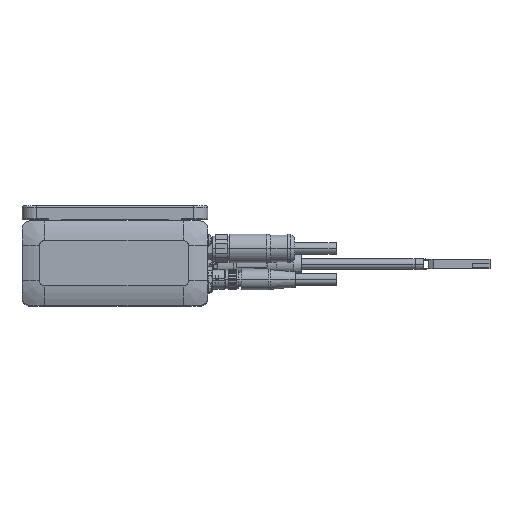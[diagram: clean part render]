
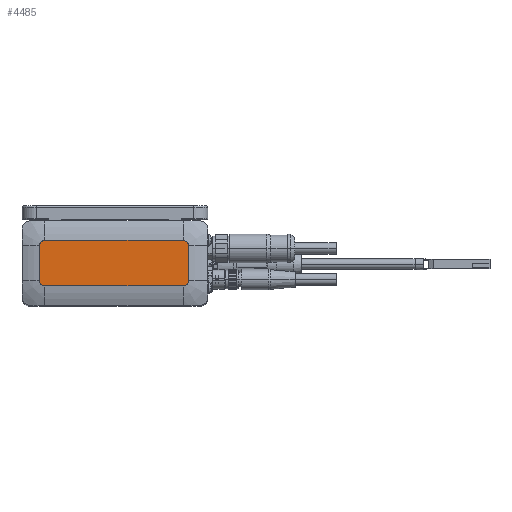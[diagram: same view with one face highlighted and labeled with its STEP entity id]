
A CAD part, top view. The second image highlights one B-rep face of the part: STEP entity #4485.
In plain terms, the highlighted planar face has unit normal (0, 0, 1).
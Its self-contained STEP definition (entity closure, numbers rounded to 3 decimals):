
#2111=DIRECTION('',(1.,0.,0.));
#2112=VECTOR('',#2111,66.986);
#2113=CARTESIAN_POINT('',(-33.986,11.016,108.));
#2114=LINE('',#2113,#2112);
#2118=CARTESIAN_POINT('',(33.,8.5,108.));
#2119=DIRECTION('',(0.,0.,-1.));
#2120=DIRECTION('',(0.,1.,0.));
#2121=AXIS2_PLACEMENT_3D('',#2118,#2119,#2120);
#2126=DIRECTION('',(0.,-1.,0.));
#2127=VECTOR('',#2126,17.);
#2128=CARTESIAN_POINT('',(35.516,8.5,108.));
#2129=LINE('',#2128,#2127);
#2133=CARTESIAN_POINT('',(33.,-8.5,108.));
#2134=DIRECTION('',(0.,0.,-1.));
#2135=DIRECTION('',(1.,0.,0.));
#2136=AXIS2_PLACEMENT_3D('',#2133,#2134,#2135);
#2141=DIRECTION('',(-1.,0.,0.));
#2142=VECTOR('',#2141,66.986);
#2143=CARTESIAN_POINT('',(33.,-11.016,108.));
#2144=LINE('',#2143,#2142);
#2148=CARTESIAN_POINT('',(-33.986,-8.5,108.));
#2149=DIRECTION('',(0.,0.,-1.));
#2150=DIRECTION('',(0.,-1.,0.));
#2151=AXIS2_PLACEMENT_3D('',#2148,#2149,#2150);
#2156=DIRECTION('',(0.,1.,0.));
#2157=VECTOR('',#2156,17.);
#2158=CARTESIAN_POINT('',(-36.501,-8.5,108.));
#2159=LINE('',#2158,#2157);
#2163=CARTESIAN_POINT('',(-33.986,8.5,108.));
#2164=DIRECTION('',(0.,0.,-1.));
#2165=DIRECTION('',(-1.,0.,0.));
#2166=AXIS2_PLACEMENT_3D('',#2163,#2164,#2165);
#3809=CARTESIAN_POINT('',(-33.986,11.016,108.));
#3810=CARTESIAN_POINT('',(33.,11.016,108.));
#3811=VERTEX_POINT('',#3809);
#3812=VERTEX_POINT('',#3810);
#3813=CARTESIAN_POINT('',(35.516,8.5,108.));
#3814=VERTEX_POINT('',#3813);
#3815=CARTESIAN_POINT('',(35.516,-8.5,108.));
#3816=VERTEX_POINT('',#3815);
#3817=CARTESIAN_POINT('',(33.,-11.016,108.));
#3818=VERTEX_POINT('',#3817);
#3819=CARTESIAN_POINT('',(-33.986,-11.016,108.));
#3820=VERTEX_POINT('',#3819);
#3821=CARTESIAN_POINT('',(-36.501,-8.5,108.));
#3822=VERTEX_POINT('',#3821);
#3823=CARTESIAN_POINT('',(-36.501,8.5,108.));
#3824=VERTEX_POINT('',#3823);
#4464=CARTESIAN_POINT('',(0.,0.,108.));
#4465=DIRECTION('',(0.,0.,1.));
#4466=DIRECTION('',(1.,0.,0.));
#4467=AXIS2_PLACEMENT_3D('',#4464,#4465,#4466);
#4468=PLANE('',#4467);
#4470=ORIENTED_EDGE('',*,*,#4469,.T.);
#4471=ORIENTED_EDGE('',*,*,#4442,.T.);
#4472=ORIENTED_EDGE('',*,*,#4455,.T.);
#4474=ORIENTED_EDGE('',*,*,#4473,.T.);
#4476=ORIENTED_EDGE('',*,*,#4475,.T.);
#4478=ORIENTED_EDGE('',*,*,#4477,.T.);
#4480=ORIENTED_EDGE('',*,*,#4479,.T.);
#4482=ORIENTED_EDGE('',*,*,#4481,.T.);
#4483=EDGE_LOOP('',(#4470,#4471,#4472,#4474,#4476,#4478,#4480,#4482));
#4484=FACE_OUTER_BOUND('',#4483,.F.);
#2122=CIRCLE('',#2121,2.516);
#2137=CIRCLE('',#2136,2.516);
#2152=CIRCLE('',#2151,2.516);
#2167=CIRCLE('',#2166,2.516);
#4442=EDGE_CURVE('',#3812,#3814,#2122,.T.);
#4455=EDGE_CURVE('',#3814,#3816,#2129,.T.);
#4469=EDGE_CURVE('',#3811,#3812,#2114,.T.);
#4473=EDGE_CURVE('',#3816,#3818,#2137,.T.);
#4475=EDGE_CURVE('',#3818,#3820,#2144,.T.);
#4477=EDGE_CURVE('',#3820,#3822,#2152,.T.);
#4479=EDGE_CURVE('',#3822,#3824,#2159,.T.);
#4481=EDGE_CURVE('',#3824,#3811,#2167,.T.);
#4485=ADVANCED_FACE('',(#4484),#4468,.T.);
